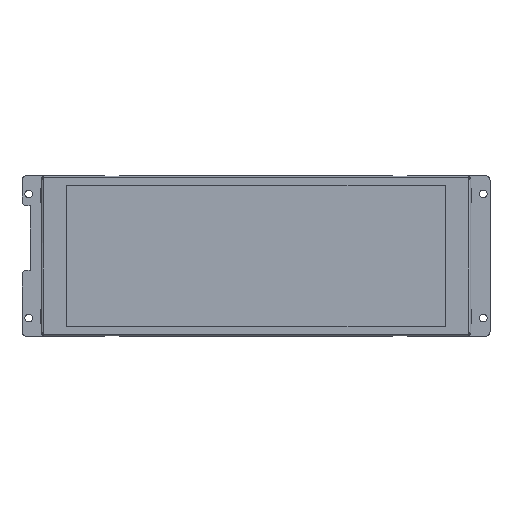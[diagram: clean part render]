
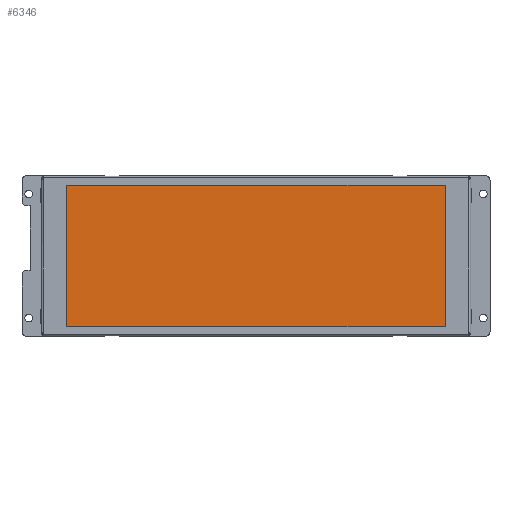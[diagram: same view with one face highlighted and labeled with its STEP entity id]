
A CAD part, top view. The second image highlights one B-rep face of the part: STEP entity #6346.
In plain terms, the highlighted planar face has unit normal (0, 0, 1) as drawn and (0, -1, 0) by its records, which use the part's own axes.
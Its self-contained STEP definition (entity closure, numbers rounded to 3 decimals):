
#6125=DIRECTION('',(-1.,0.,0.));
#6126=VECTOR('',#6125,60.22);
#6127=CARTESIAN_POINT('',(30.11,0.2,80.3));
#6128=LINE('',#6127,#6126);
#6132=DIRECTION('',(0.,0.,1.));
#6133=VECTOR('',#6132,160.59);
#6134=CARTESIAN_POINT('',(30.11,0.2,-80.29));
#6135=LINE('',#6134,#6133);
#6139=DIRECTION('',(1.,0.,0.));
#6140=VECTOR('',#6139,60.22);
#6141=CARTESIAN_POINT('',(-30.11,0.2,-80.29));
#6142=LINE('',#6141,#6140);
#6146=DIRECTION('',(0.,0.,-1.));
#6147=VECTOR('',#6146,160.59);
#6148=CARTESIAN_POINT('',(-30.11,0.2,80.3));
#6149=LINE('',#6148,#6147);
#6169=CARTESIAN_POINT('',(30.11,0.2,80.3));
#6170=CARTESIAN_POINT('',(-30.11,0.2,80.3));
#6171=VERTEX_POINT('',#6169);
#6172=VERTEX_POINT('',#6170);
#6173=CARTESIAN_POINT('',(-30.11,0.2,-80.29));
#6174=VERTEX_POINT('',#6173);
#6175=CARTESIAN_POINT('',(30.11,0.2,-80.29));
#6176=VERTEX_POINT('',#6175);
#6335=CARTESIAN_POINT('',(0.,0.2,0.));
#6336=DIRECTION('',(0.,-1.,0.));
#6337=DIRECTION('',(0.,0.,-1.));
#6338=AXIS2_PLACEMENT_3D('',#6335,#6336,#6337);
#6339=PLANE('',#6338);
#6340=ORIENTED_EDGE('',*,*,#6287,.F.);
#6341=ORIENTED_EDGE('',*,*,#6302,.F.);
#6342=ORIENTED_EDGE('',*,*,#6316,.F.);
#6343=ORIENTED_EDGE('',*,*,#6329,.F.);
#6344=EDGE_LOOP('',(#6340,#6341,#6342,#6343));
#6345=FACE_OUTER_BOUND('',#6344,.F.);
#6287=EDGE_CURVE('',#6171,#6172,#6128,.T.);
#6302=EDGE_CURVE('',#6176,#6171,#6135,.T.);
#6316=EDGE_CURVE('',#6174,#6176,#6142,.T.);
#6329=EDGE_CURVE('',#6172,#6174,#6149,.T.);
#6346=ADVANCED_FACE('',(#6345),#6339,.T.);
